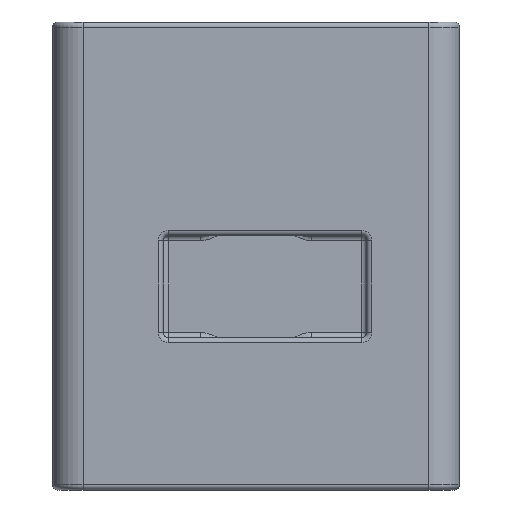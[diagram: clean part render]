
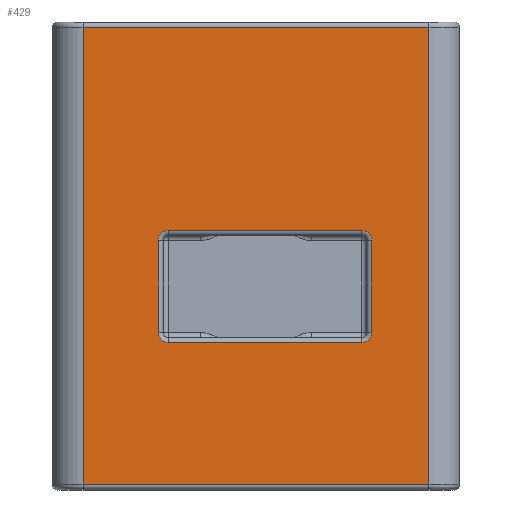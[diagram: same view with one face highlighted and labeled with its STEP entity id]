
A CAD part, front view. The second image highlights one B-rep face of the part: STEP entity #429.
In plain terms, the highlighted planar face has unit normal (0, -1, 0).
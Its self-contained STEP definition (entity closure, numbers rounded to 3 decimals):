
#11 = ORIENTED_EDGE ( 'NONE', *, *, #3466, .T. ) ;
#61 = VECTOR ( 'NONE', #547, 1000. ) ;
#65 = VERTEX_POINT ( 'NONE', #3720 ) ;
#163 = DIRECTION ( 'NONE',  ( 0., -1., 0. ) ) ;
#171 = ORIENTED_EDGE ( 'NONE', *, *, #1446, .T. ) ;
#184 = CARTESIAN_POINT ( 'NONE',  ( -9.603, -11.691, 22.75 ) ) ;
#225 = DIRECTION ( 'NONE',  ( 0., -1., 0. ) ) ;
#278 = VECTOR ( 'NONE', #2943, 1000. ) ;
#285 = EDGE_CURVE ( 'NONE', #2863, #3144, #498, .T. ) ;
#291 = CARTESIAN_POINT ( 'NONE',  ( -5.415, -11.691, 12.25 ) ) ;
#384 = LINE ( 'NONE', #2580, #278 ) ;
#398 = VERTEX_POINT ( 'NONE', #3563 ) ;
#425 = CARTESIAN_POINT ( 'NONE',  ( 4.585, -11.691, 12.25 ) ) ;
#429 = ADVANCED_FACE ( 'NONE', ( #1723, #880 ), #4057, .F. ) ;
#432 = EDGE_CURVE ( 'NONE', #2872, #4268, #4334, .T. ) ;
#445 = VECTOR ( 'NONE', #3940, 1000. ) ;
#498 = CIRCLE ( 'NONE', #2040, 0.5 ) ;
#499 = EDGE_CURVE ( 'NONE', #2831, #4460, #2224, .T. ) ;
#522 = CARTESIAN_POINT ( 'NONE',  ( 4.085, -11.691, 7.75 ) ) ;
#547 = DIRECTION ( 'NONE',  ( -1., 0., 0. ) ) ;
#634 = DIRECTION ( 'NONE',  ( 0., 0., 1. ) ) ;
#664 = VECTOR ( 'NONE', #3882, 1000. ) ;
#681 = ORIENTED_EDGE ( 'NONE', *, *, #432, .T. ) ;
#689 = ORIENTED_EDGE ( 'NONE', *, *, #875, .F. ) ;
#750 = AXIS2_PLACEMENT_3D ( 'NONE', #3693, #4406, #2281 ) ;
#857 = DIRECTION ( 'NONE',  ( 1., 0., 0. ) ) ;
#875 = EDGE_CURVE ( 'NONE', #65, #1583, #2219, .T. ) ;
#876 = DIRECTION ( 'NONE',  ( 0., 0., 1. ) ) ;
#880 = FACE_BOUND ( 'NONE', #3249, .T. ) ;
#937 = VECTOR ( 'NONE', #3150, 1000. ) ;
#1005 = ORIENTED_EDGE ( 'NONE', *, *, #1298, .F. ) ;
#1010 = CARTESIAN_POINT ( 'NONE',  ( 4.085, -11.691, 7.25 ) ) ;
#1059 = AXIS2_PLACEMENT_3D ( 'NONE', #2357, #225, #2708 ) ;
#1084 = ORIENTED_EDGE ( 'NONE', *, *, #285, .F. ) ;
#1105 = CARTESIAN_POINT ( 'NONE',  ( 7.397, -11.691, 22.75 ) ) ;
#1298 = EDGE_CURVE ( 'NONE', #1711, #4510, #3494, .T. ) ;
#1364 = VERTEX_POINT ( 'NONE', #1010 ) ;
#1383 = CARTESIAN_POINT ( 'NONE',  ( 4.585, -11.691, 23. ) ) ;
#1446 = EDGE_CURVE ( 'NONE', #2863, #398, #3289, .T. ) ;
#1447 = CARTESIAN_POINT ( 'NONE',  ( -9.603, -11.691, 22.75 ) ) ;
#1525 = ORIENTED_EDGE ( 'NONE', *, *, #499, .T. ) ;
#1548 = VECTOR ( 'NONE', #1803, 1000. ) ;
#1583 = VERTEX_POINT ( 'NONE', #4318 ) ;
#1711 = VERTEX_POINT ( 'NONE', #4036 ) ;
#1723 = FACE_OUTER_BOUND ( 'NONE', #4087, .T. ) ;
#1801 = EDGE_CURVE ( 'NONE', #1364, #1583, #3008, .T. ) ;
#1803 = DIRECTION ( 'NONE',  ( 0., 0., 1. ) ) ;
#1984 = DIRECTION ( 'NONE',  ( 0., 0., 1. ) ) ;
#2018 = EDGE_CURVE ( 'NONE', #4460, #2872, #2840, .T. ) ;
#2040 = AXIS2_PLACEMENT_3D ( 'NONE', #2295, #163, #2642 ) ;
#2105 = EDGE_CURVE ( 'NONE', #65, #4510, #2608, .T. ) ;
#2196 = EDGE_CURVE ( 'NONE', #1711, #3144, #384, .T. ) ;
#2219 = CIRCLE ( 'NONE', #1059, 0.5 ) ;
#2224 = LINE ( 'NONE', #1447, #445 ) ;
#2281 = DIRECTION ( 'NONE',  ( 0., 0., 1. ) ) ;
#2295 = CARTESIAN_POINT ( 'NONE',  ( 4.085, -11.691, 12.25 ) ) ;
#2357 = CARTESIAN_POINT ( 'NONE',  ( -5.415, -11.691, 7.75 ) ) ;
#2485 = VECTOR ( 'NONE', #1984, 1000. ) ;
#2488 = ORIENTED_EDGE ( 'NONE', *, *, #2018, .T. ) ;
#2555 = CARTESIAN_POINT ( 'NONE',  ( -9.603, -11.691, 0.25 ) ) ;
#2580 = CARTESIAN_POINT ( 'NONE',  ( -11.103, -11.691, 12.75 ) ) ;
#2584 = CIRCLE ( 'NONE', #4153, 0.5 ) ;
#2608 = LINE ( 'NONE', #4298, #1548 ) ;
#2642 = DIRECTION ( 'NONE',  ( 0., 0., 1. ) ) ;
#2662 = VECTOR ( 'NONE', #857, 1000. ) ;
#2708 = DIRECTION ( 'NONE',  ( 0., 0., 1. ) ) ;
#2776 = DIRECTION ( 'NONE',  ( 0., -1., 0. ) ) ;
#2793 = CARTESIAN_POINT ( 'NONE',  ( -9.603, -11.691, 23. ) ) ;
#2831 = VERTEX_POINT ( 'NONE', #1105 ) ;
#2840 = LINE ( 'NONE', #2793, #937 ) ;
#2863 = VERTEX_POINT ( 'NONE', #425 ) ;
#2872 = VERTEX_POINT ( 'NONE', #2555 ) ;
#2943 = DIRECTION ( 'NONE',  ( 1., 0., 0. ) ) ;
#2998 = CARTESIAN_POINT ( 'NONE',  ( -11.103, -11.691, 0.25 ) ) ;
#3008 = LINE ( 'NONE', #4448, #61 ) ;
#3018 = DIRECTION ( 'NONE',  ( 0., -1., 0. ) ) ;
#3144 = VERTEX_POINT ( 'NONE', #3165 ) ;
#3150 = DIRECTION ( 'NONE',  ( 0., 0., -1. ) ) ;
#3165 = CARTESIAN_POINT ( 'NONE',  ( 4.085, -11.691, 12.75 ) ) ;
#3249 = EDGE_LOOP ( 'NONE', ( #4376, #3678, #689, #4142, #1005, #3530, #1084, #171 ) ) ;
#3289 = LINE ( 'NONE', #1383, #664 ) ;
#3402 = CARTESIAN_POINT ( 'NONE',  ( 7.397, -11.691, 23. ) ) ;
#3466 = EDGE_CURVE ( 'NONE', #4268, #2831, #4377, .T. ) ;
#3494 = CIRCLE ( 'NONE', #4311, 0.5 ) ;
#3530 = ORIENTED_EDGE ( 'NONE', *, *, #2196, .T. ) ;
#3563 = CARTESIAN_POINT ( 'NONE',  ( 4.585, -11.691, 7.75 ) ) ;
#3678 = ORIENTED_EDGE ( 'NONE', *, *, #1801, .T. ) ;
#3693 = CARTESIAN_POINT ( 'NONE',  ( -11.103, -11.691, 23. ) ) ;
#3720 = CARTESIAN_POINT ( 'NONE',  ( -5.915, -11.691, 7.75 ) ) ;
#3882 = DIRECTION ( 'NONE',  ( 0., 0., -1. ) ) ;
#3940 = DIRECTION ( 'NONE',  ( -1., 0., 0. ) ) ;
#4036 = CARTESIAN_POINT ( 'NONE',  ( -5.415, -11.691, 12.75 ) ) ;
#4057 = PLANE ( 'NONE',  #750 ) ;
#4087 = EDGE_LOOP ( 'NONE', ( #2488, #681, #11, #1525 ) ) ;
#4142 = ORIENTED_EDGE ( 'NONE', *, *, #2105, .T. ) ;
#4153 = AXIS2_PLACEMENT_3D ( 'NONE', #522, #3018, #876 ) ;
#4201 = CARTESIAN_POINT ( 'NONE',  ( 7.397, -11.691, 0.25 ) ) ;
#4268 = VERTEX_POINT ( 'NONE', #4201 ) ;
#4298 = CARTESIAN_POINT ( 'NONE',  ( -5.915, -11.691, 23. ) ) ;
#4311 = AXIS2_PLACEMENT_3D ( 'NONE', #291, #2776, #634 ) ;
#4318 = CARTESIAN_POINT ( 'NONE',  ( -5.415, -11.691, 7.25 ) ) ;
#4334 = LINE ( 'NONE', #2998, #2662 ) ;
#4376 = ORIENTED_EDGE ( 'NONE', *, *, #4427, .F. ) ;
#4377 = LINE ( 'NONE', #3402, #2485 ) ;
#4406 = DIRECTION ( 'NONE',  ( 0., 1., 0. ) ) ;
#4427 = EDGE_CURVE ( 'NONE', #1364, #398, #2584, .T. ) ;
#4448 = CARTESIAN_POINT ( 'NONE',  ( -11.103, -11.691, 7.25 ) ) ;
#4460 = VERTEX_POINT ( 'NONE', #184 ) ;
#4470 = CARTESIAN_POINT ( 'NONE',  ( -5.915, -11.691, 12.25 ) ) ;
#4510 = VERTEX_POINT ( 'NONE', #4470 ) ;
